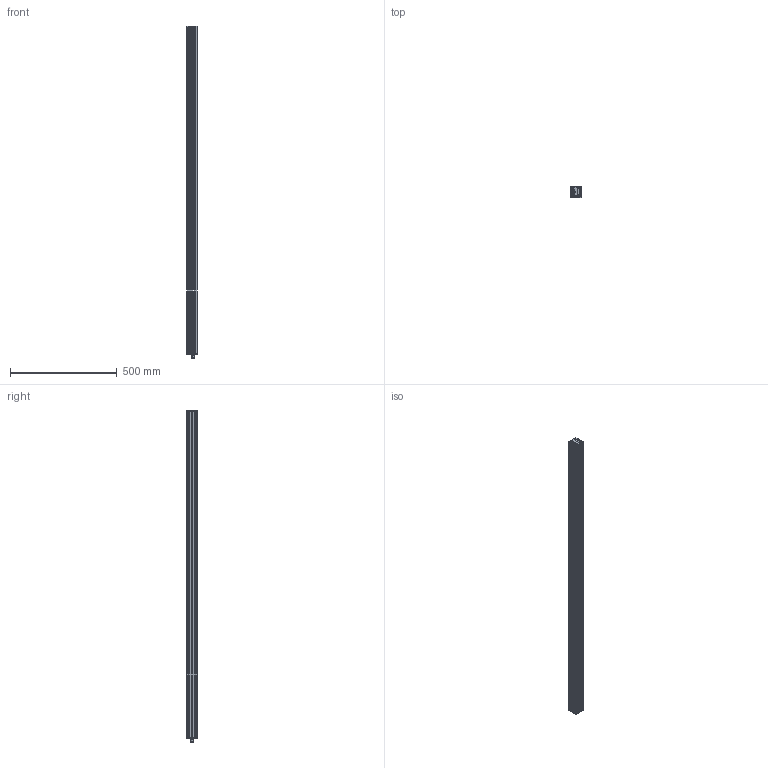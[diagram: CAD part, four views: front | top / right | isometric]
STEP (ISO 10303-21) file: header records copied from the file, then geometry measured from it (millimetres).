
FILE_DESCRIPTION (( 'STEP AP214' ), '1' );
FILE_NAME ('008809A.STEP', '2018-10-12T09:09:32', ( '' ), ( '' ), 'SwSTEP 2.0', 'SolidWorks 2018', '' );
FILE_SCHEMA (( 'AUTOMOTIVE_DESIGN' ));
Length unit declared in the file: millimetre
Products named in the file (1): 008809A
Bounding box: 49 x 51 x 1552.2 mm (x, y, z)
Surface area: 702652.2 mm2 (no closed solid volume)
Topology: 0 solids, 67 shells, 350 faces, 3109 edges, 2806 vertices
Faces by surface type: plane 187, cylinder 119, cone 27, bspline 17
Entity records: 38859 total; most frequent: CARTESIAN_POINT 13885, DIRECTION 3881, ORIENTED_EDGE 3570, EDGE_CURVE 3109, VERTEX_POINT 2806, VECTOR 1871, LINE 1871, AXIS2_PLACEMENT_3D 1005
